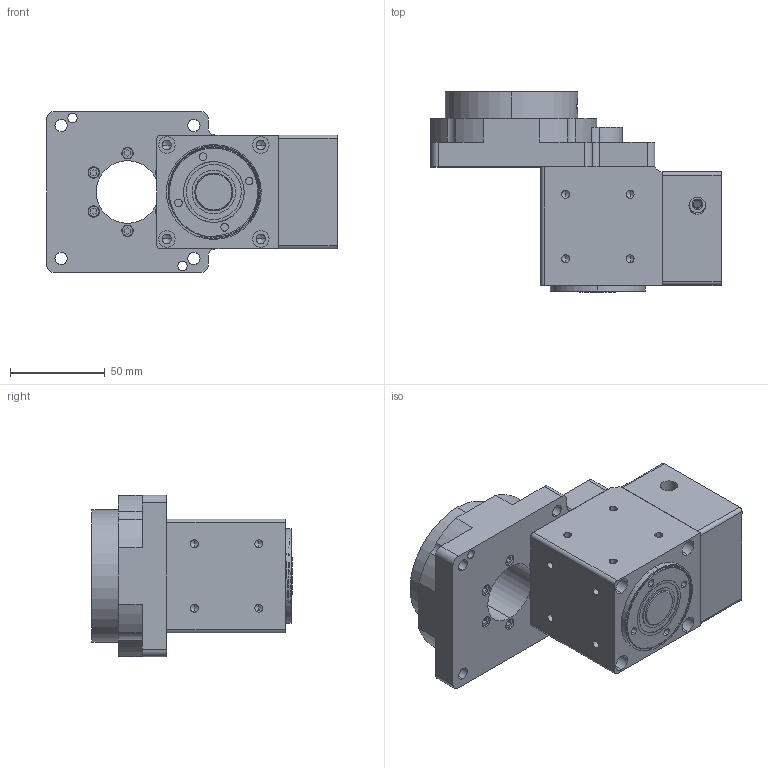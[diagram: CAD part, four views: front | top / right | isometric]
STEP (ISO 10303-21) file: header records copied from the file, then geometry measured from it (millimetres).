
FILE_DESCRIPTION (( 'STEP AP203' ), '1' );
FILE_NAME ('NTFA085-8-38.1-66.7-M4.STEP', '2024-06-25T06:41:49', ( 'Windows User' ), ( 'P R C' ), 'SwSTEP 2.0', 'SolidWorks 2016', '' );
FILE_SCHEMA (( 'CONFIG_CONTROL_DESIGN' ));
Length unit declared in the file: millimetre
Products named in the file (14): NTFA085-5K加转向器一体(配57步进输入8-30 38.1-5 4-M4-47.14-47.14)-01; 14-8粣杶; 褲极; 綴楊擘2ㄗ祭輛ㄘ; 標杶; 步进垫圈; 蹟譫; NTFA085-5K加转向器一体(配57步进输入8-30 38.1-5 4-M4-47.14-47.14)-02; 输入轴; NTFA085-8-38.1-66.7-M4; 6003_Rolling bearings 6003 GB 276-94; 30204_Rolling bearings 30204 GB 297-94; 20-32-5蚐猾; ZH怀堤粣
Assembly tree (16 placements, depth 3):
  NTFA085-8-38.1-66.7-M4
    NTFA085-5K加转向器一体(配57步进输入8-30 38.1-5 4-M4-47.14-47.14)-01
    NTFA085-5K加转向器一体(配57步进输入8-30 38.1-5 4-M4-47.14-47.14)-02
      褲极
      標杶
      蹟譫  x2
      输入轴
      6003_Rolling bearings 6003 GB 276-94
      30204_Rolling bearings 30204 GB 297-94  x2
      20-32-5蚐猾  x2
      ZH怀堤粣
      14-8粣杶
      綴楊擘2ㄗ祭輛ㄘ
      步进垫圈
Bounding box: 153 x 105.5 x 85 mm (x, y, z)
Volume: 467695.2 mm3; surface area: 157461.2 mm2
Topology: 27 solids, 33 shells, 1779 faces, 5405 edges, 3397 vertices
Faces by surface type: plane 690, bspline 515, cylinder 385, cone 189
Entity records: 70789 total; most frequent: CARTESIAN_POINT 31642, ORIENTED_EDGE 8666, DIRECTION 6687, EDGE_CURVE 4333, VERTEX_POINT 2871, AXIS2_PLACEMENT_3D 2373, LINE 1941, VECTOR 1941
